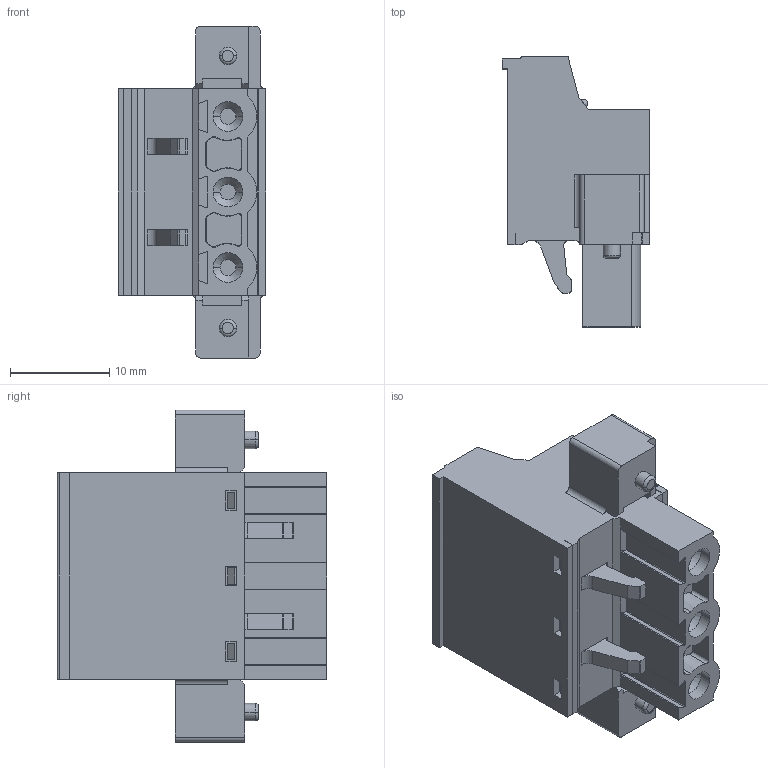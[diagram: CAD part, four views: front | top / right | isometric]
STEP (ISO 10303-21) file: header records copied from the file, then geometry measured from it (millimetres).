
FILE_DESCRIPTION((''),'2;1');
FILE_NAME('33','2019-04-10T',('zhenbing.lai'),(''),'CREO PARAMETRIC BY PTC INC, 2016260','CREO PARAMETRIC BY PTC INC, 2016260','');
FILE_SCHEMA(('CONFIG_CONTROL_DESIGN'));
Length unit declared in the file: millimetre
Products named in the file (1): 33
Bounding box: 14.9 x 27.2 x 33.48 mm (x, y, z)
Volume: 5860.8 mm3; surface area: 3350.1 mm2
Topology: 1 solids, 6 shells, 423 faces, 1205 edges, 791 vertices
Faces by surface type: plane 301, cylinder 76, cone 32, torus 8, sphere 6
Entity records: 14075 total; most frequent: CARTESIAN_POINT 2997, ORIENTED_EDGE 2398, DIRECTION 2173, EDGE_CURVE 1199, VECTOR 859, LINE 859, VERTEX_POINT 791, AXIS2_PLACEMENT_3D 657
